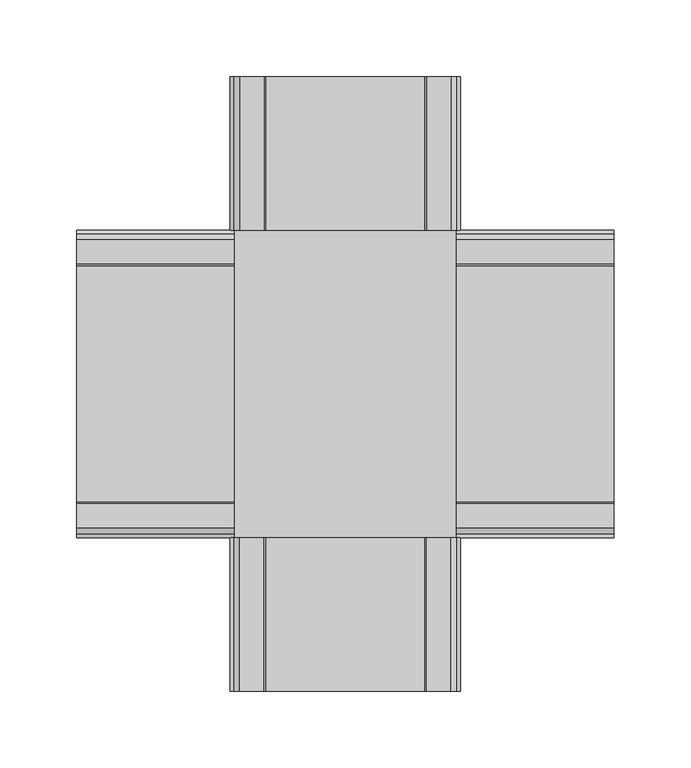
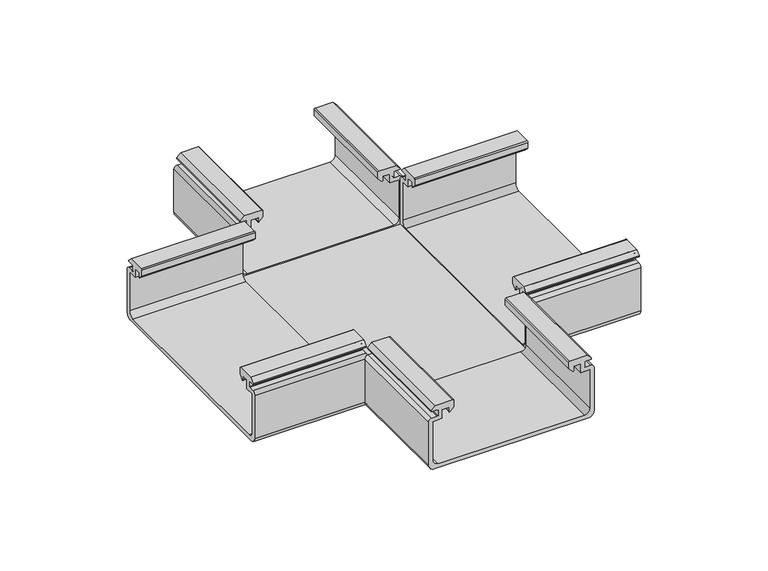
"""IFC4 building model written with IfcOpenShell, lengths in millimetres: cable carrier fitting geometry, CRBPE_Horizontal Cross-over_Basorplast : 4 x Basorplast PDBPE."""

from ifc_helpers import new_model, si_unit, point, frame, frame_2d, origin, place, context, project, spatial, polyline, circle_curve, trimmed, segment, composite_curve, outline, extrude, source, transform, mapped, element, save
from ifc_brep_helpers import plane_surface, cylinder_surface, revolved_surface, advanced_brep


def cable_carrier_fitting_d8d1faad(model_context):
    return source(origin(), model_context, "Body", "SolidModel", [
        extrude(outline(polyline([(72.46, -100.0), (-72.46, -100.0), (-72.46, 100.0), (72.46, 100.0), (72.46, -100.0)])), frame((0.0, 0.0, -30.0), z_axis=(0.0, 0.0, 1.0), x_axis=(1.0, 0.0, 0.0)), (0.0, 0.0, 1.0), 2.54),
        extrude(outline(composite_curve([segment(trimmed(circle_curve(frame_2d((-81.0, 20.0)), 0.5), [point((-80.6464466, 19.6464466))], [point((-81.5, 20.0))], False, "CARTESIAN"), True, "CONTINUOUS"), segment(polyline([(-81.5, 20.0), (-81.5, 24.0), (-87.9, 24.0), (-87.9, 15.7), (-96.4, 15.7), (-96.4, -21.4)]), True, "CONTINUOUS"), segment(trimmed(circle_curve(frame_2d((-91.4, -21.4)), 5.0), [point((-96.4, -21.4))], [point((-91.4, -26.4))], True, "CARTESIAN"), True, "CONTINUOUS"), segment(polyline([(-91.4, -26.4), (91.4, -26.4)]), True, "CONTINUOUS"), segment(trimmed(circle_curve(frame_2d((91.4, -21.4)), 5.0), [point((91.4, -26.4))], [point((96.4, -21.4))], True, "CARTESIAN"), True, "CONTINUOUS"), segment(polyline([(96.4, -21.4), (96.4, 15.7), (87.9, 15.7), (87.9, 24.0), (81.5, 24.0), (81.5, 20.0)]), True, "CONTINUOUS"), segment(trimmed(circle_curve(frame_2d((81.0, 20.0)), 0.5), [point((81.5, 20.0))], [point((80.6464466, 19.6464466))], False, "CARTESIAN"), True, "CONTINUOUS"), segment(polyline([(80.6464466, 19.6464466), (77.0, 23.2928932), (77.0, 29.0)]), True, "CONTINUOUS"), segment(trimmed(circle_curve(frame_2d((78.0, 29.0)), 1.0), [point((77.0, 29.0))], [point((78.0, 30.0))], False, "CARTESIAN"), True, "CONTINUOUS"), segment(polyline([(78.0, 30.0), (93.8, 30.0), (97.5, 26.3), (97.5, 25.3), (92.0, 25.3)]), True, "CONTINUOUS"), segment(trimmed(circle_curve(frame_2d((92.0, 24.8)), 0.5), [point((92.0, 25.3))], [point((91.5, 24.8))], True, "CARTESIAN"), True, "CONTINUOUS"), segment(polyline([(91.5, 24.8), (91.5, 19.8)]), True, "CONTINUOUS"), segment(trimmed(circle_curve(frame_2d((92.0, 19.8)), 0.5), [point((91.5, 19.8))], [point((92.0, 19.3))], True, "CARTESIAN"), True, "CONTINUOUS"), segment(polyline([(92.0, 19.3), (97.0, 19.3)]), True, "CONTINUOUS"), segment(trimmed(circle_curve(frame_2d((97.0, 16.3)), 3.0), [point((97.0, 19.3))], [point((100.0, 16.3))], False, "CARTESIAN"), True, "CONTINUOUS"), segment(polyline([(100.0, 16.3), (100.0, -25.0)]), True, "CONTINUOUS"), segment(trimmed(circle_curve(frame_2d((95.0, -25.0)), 5.0), [point((100.0, -25.0))], [point((95.0, -30.0))], False, "CARTESIAN"), True, "CONTINUOUS"), segment(polyline([(95.0, -30.0), (-95.0, -30.0)]), True, "CONTINUOUS"), segment(trimmed(circle_curve(frame_2d((-95.0, -25.0)), 5.0), [point((-95.0, -30.0))], [point((-100.0, -25.0))], False, "CARTESIAN"), True, "CONTINUOUS"), segment(polyline([(-100.0, -25.0), (-100.0, 16.3)]), True, "CONTINUOUS"), segment(trimmed(circle_curve(frame_2d((-97.0, 16.3)), 3.0), [point((-100.0, 16.3))], [point((-97.0, 19.3))], False, "CARTESIAN"), True, "CONTINUOUS"), segment(polyline([(-97.0, 19.3), (-92.0, 19.3)]), True, "CONTINUOUS"), segment(trimmed(circle_curve(frame_2d((-92.0, 19.8)), 0.5), [point((-92.0, 19.3))], [point((-91.5, 19.8))], True, "CARTESIAN"), True, "CONTINUOUS"), segment(polyline([(-91.5, 19.8), (-91.5, 24.8)]), True, "CONTINUOUS"), segment(trimmed(circle_curve(frame_2d((-92.0, 24.8)), 0.5), [point((-91.5, 24.8))], [point((-92.0, 25.3))], True, "CARTESIAN"), True, "CONTINUOUS"), segment(polyline([(-92.0, 25.3), (-97.5, 25.3), (-97.5, 26.3), (-93.8, 30.0), (-78.0, 30.0)]), True, "CONTINUOUS"), segment(trimmed(circle_curve(frame_2d((-78.0, 29.0)), 1.0), [point((-78.0, 30.0))], [point((-77.0, 29.0))], False, "CARTESIAN"), True, "CONTINUOUS"), segment(polyline([(-77.0, 29.0), (-77.0, 23.2928932), (-80.6464466, 19.6464466)]), True, "CONTINUOUS")], self_intersect=False)), frame((72.46, 0.0, 0.0), z_axis=(1.0, 0.0, 0.0), x_axis=(0.0, 1.0, 0.0)), (0.0, 0.0, 1.0), 102.54),
        advanced_brep(
        [(-175.0, -80.6464466, 19.6464466), (-175.0, -81.5, 20.0), (-175.0, -81.5, 24.0), (-175.0, -87.9, 24.0), (-175.0, -87.9, 15.7), (-175.0, -96.4, 15.7), (-175.0, -96.4, -21.4), (-175.0, -91.4, -26.4), (-175.0, 91.4, -26.4), (-175.0, 96.4, -21.4), (-175.0, 96.4, 15.7), (-175.0, 87.9, 15.7), (-175.0, 87.9, 24.0), (-175.0, 81.5, 24.0), (-175.0, 81.5, 20.0), (-175.0, 80.6464466, 19.6464466), (-175.0, 77.0, 23.2928932), (-175.0, 77.0, 29.0), (-175.0, 78.0, 30.0), (-175.0, 93.8, 30.0), (-175.0, 97.5, 26.3), (-175.0, 97.5, 25.3), (-175.0, 92.0, 25.3), (-175.0, 91.5, 24.8), (-175.0, 91.5, 19.8), (-175.0, 92.0, 19.3), (-175.0, 97.0, 19.3), (-175.0, 100.0, 16.3), (-175.0, 100.0, -25.0), (-175.0, 95.0, -30.0), (-175.0, -95.0, -30.0), (-175.0, -100.0, -25.0), (-175.0, -100.0, 16.3), (-175.0, -97.0, 19.3), (-175.0, -92.0, 19.3), (-175.0, -91.5, 19.8), (-175.0, -91.5, 24.8), (-175.0, -92.0, 25.3), (-175.0, -97.5, 25.3), (-175.0, -97.5, 26.3), (-175.0, -93.8, 30.0), (-175.0, -78.0, 30.0), (-175.0, -77.0, 29.0), (-175.0, -77.0, 23.2928932), (-72.46, -80.6464466, 19.6464466), (-72.46, -77.0, 23.2928932), (-72.46, -77.0, 29.0), (-72.46, -78.0, 30.0), (-72.46, -93.8, 30.0), (-72.46, -97.5, 26.3), (-72.46, -97.5, 25.3), (-72.46, -92.0, 25.3), (-72.46, -91.5, 24.8), (-72.46, -91.5, 19.8), (-72.46, -92.0, 19.3), (-72.46, -97.0, 19.3), (-72.46, -100.0, 16.3), (-72.46, -100.0, -25.0), (-72.46, -95.0, -30.0), (-72.46, 95.0, -30.0), (-72.46, 100.0, -25.0), (-72.46, 100.0, 16.3), (-72.46, 97.0, 19.3), (-72.46, 92.0, 19.3), (-72.46, 91.5, 19.8), (-72.46, 91.5, 24.8), (-72.46, 92.0, 25.3), (-72.46, 97.5, 25.3), (-72.46, 97.5, 26.3), (-72.46, 93.8, 30.0), (-72.46, 78.0, 30.0), (-72.46, 77.0, 29.0), (-72.46, 77.0, 23.2928932), (-72.46, 80.6464466, 19.6464466), (-72.46, 81.5, 20.0), (-72.46, 81.5, 24.0), (-72.46, 87.9, 24.0), (-72.46, 87.9, 15.7), (-72.46, 96.4, 15.7), (-72.46, 96.4, -21.4), (-72.46, 91.4, -26.4), (-72.46, -91.4, -26.4), (-72.46, -96.4, -21.4), (-72.46, -96.4, 15.7), (-72.46, -87.9, 15.7), (-72.46, -87.9, 24.0), (-72.46, -81.5, 24.0), (-72.46, -81.5, 20.0), (-75.0, 100.0, 16.3), (-75.0, 100.0, -25.0), (-75.0, -100.0, -25.0), (-75.0, -100.0, 16.3), (55.6464466, -200.0, 19.6464466), (56.5, -200.0, 20.0), (56.5, -200.0, 24.0), (62.9, -200.0, 24.0), (62.9, -200.0, 15.7), (71.4, -200.0, 15.7), (71.4, -200.0, -21.4), (66.4, -200.0, -26.4), (-66.4, -200.0, -26.4), (-71.4, -200.0, -21.4), (-71.4, -200.0, 15.7), (-62.9, -200.0, 15.7), (-62.9, -200.0, 24.0), (-56.5, -200.0, 24.0), (-56.5, -200.0, 20.0), (-55.6464466, -200.0, 19.6464466), (-52.0, -200.0, 23.2928932), (-52.0, -200.0, 29.0), (-53.0, -200.0, 30.0), (-68.8, -200.0, 30.0), (-72.5, -200.0, 26.3), (-72.5, -200.0, 25.3), (-67.0, -200.0, 25.3), (-66.5, -200.0, 24.8), (-66.5, -200.0, 19.8), (-67.0, -200.0, 19.3), (-72.0, -200.0, 19.3), (-75.0, -200.0, 16.3), (-75.0, -200.0, -25.0), (-70.0, -200.0, -30.0), (70.0, -200.0, -30.0), (75.0, -200.0, -25.0), (75.0, -200.0, 16.3), (72.0, -200.0, 19.3), (67.0, -200.0, 19.3), (66.5, -200.0, 19.8), (66.5, -200.0, 24.8), (67.0, -200.0, 25.3), (72.5, -200.0, 25.3), (72.5, -200.0, 26.3), (68.8, -200.0, 30.0), (53.0, -200.0, 30.0), (52.0, -200.0, 29.0), (52.0, -200.0, 23.2928932), (55.6464466, -100.0, 19.6464466), (52.0, -100.0, 23.2928932), (52.0, -100.0, 29.0), (53.0, -100.0, 30.0), (68.8, -100.0, 30.0), (72.5, -100.0, 26.3), (72.5, -100.0, 25.3), (67.0, -100.0, 25.3), (66.5, -100.0, 24.8), (66.5, -100.0, 19.8), (67.0, -100.0, 19.3), (72.0, -100.0, 19.3), (75.0, -100.0, 16.3), (75.0, -100.0, -25.0), (70.0, -100.0, -30.0), (-70.0, -100.0, -30.0), (-72.0, -100.0, 19.3), (-67.0, -100.0, 19.3), (-66.5, -100.0, 19.8), (-66.5, -100.0, 24.8), (-67.0, -100.0, 25.3), (-72.5, -100.0, 25.3), (-72.5, -100.0, 26.3), (-68.8, -100.0, 30.0), (-53.0, -100.0, 30.0), (-52.0, -100.0, 29.0), (-52.0, -100.0, 23.2928932), (-55.6464466, -100.0, 19.6464466), (-56.5, -100.0, 20.0), (-56.5, -100.0, 24.0), (-62.9, -100.0, 24.0), (-62.9, -100.0, 15.7), (-71.4, -100.0, 15.7), (-71.4, -100.0, -21.4), (-66.4, -100.0, -26.4), (66.4, -100.0, -26.4), (71.4, -100.0, -21.4), (71.4, -100.0, 15.7), (62.9, -100.0, 15.7), (62.9, -100.0, 24.0), (56.5, -100.0, 24.0), (56.5, -100.0, 20.0), (-55.6464466, 200.0, 19.6464466), (-56.5, 200.0, 20.0), (-56.5, 200.0, 24.0), (-62.9, 200.0, 24.0), (-62.9, 200.0, 15.7), (-71.4, 200.0, 15.7), (-71.4, 200.0, -21.4), (-66.4, 200.0, -26.4), (66.4, 200.0, -26.4), (71.4, 200.0, -21.4), (71.4, 200.0, 15.7), (62.9, 200.0, 15.7), (62.9, 200.0, 24.0), (56.5, 200.0, 24.0), (56.5, 200.0, 20.0), (55.6464466, 200.0, 19.6464466), (52.0, 200.0, 23.2928932), (52.0, 200.0, 29.0), (53.0, 200.0, 30.0), (68.8, 200.0, 30.0), (72.5, 200.0, 26.3), (72.5, 200.0, 25.3), (67.0, 200.0, 25.3), (66.5, 200.0, 24.8), (66.5, 200.0, 19.8), (67.0, 200.0, 19.3), (72.0, 200.0, 19.3), (75.0, 200.0, 16.3), (75.0, 200.0, -25.0), (70.0, 200.0, -30.0), (-70.0, 200.0, -30.0), (-75.0, 200.0, -25.0), (-75.0, 200.0, 16.3), (-72.0, 200.0, 19.3), (-67.0, 200.0, 19.3), (-66.5, 200.0, 19.8), (-66.5, 200.0, 24.8), (-67.0, 200.0, 25.3), (-72.5, 200.0, 25.3), (-72.5, 200.0, 26.3), (-68.8, 200.0, 30.0), (-53.0, 200.0, 30.0), (-52.0, 200.0, 29.0), (-52.0, 200.0, 23.2928932), (-55.6464466, 100.0, 19.6464466), (-52.0, 100.0, 23.2928932), (-52.0, 100.0, 29.0), (-53.0, 100.0, 30.0), (-68.8, 100.0, 30.0), (-72.5, 100.0, 26.3), (-72.5, 100.0, 25.3), (-67.0, 100.0, 25.3), (-66.5, 100.0, 24.8), (-66.5, 100.0, 19.8), (-67.0, 100.0, 19.3), (-72.0, 100.0, 19.3), (-70.0, 100.0, -30.0), (70.0, 100.0, -30.0), (75.0, 100.0, -25.0), (75.0, 100.0, 16.3), (72.0, 100.0, 19.3), (67.0, 100.0, 19.3), (66.5, 100.0, 19.8), (66.5, 100.0, 24.8), (67.0, 100.0, 25.3), (72.5, 100.0, 25.3), (72.5, 100.0, 26.3), (68.8, 100.0, 30.0), (53.0, 100.0, 30.0), (52.0, 100.0, 29.0), (52.0, 100.0, 23.2928932), (55.6464466, 100.0, 19.6464466), (56.5, 100.0, 20.0), (56.5, 100.0, 24.0), (62.9, 100.0, 24.0), (62.9, 100.0, 15.7), (71.4, 100.0, 15.7), (71.4, 100.0, -21.4), (66.4, 100.0, -26.4), (-66.4, 100.0, -26.4), (-71.4, 100.0, -21.4), (-71.4, 100.0, 15.7), (-62.9, 100.0, 15.7), (-62.9, 100.0, 24.0), (-56.5, 100.0, 24.0), (-56.5, 100.0, 20.0)],
        [
            (0, 1, circle_curve(frame((-175.0, -81.0, 20.0), z_axis=(-1.0, 0.0, 0.0), x_axis=(0.0, 1.0, 0.0)), 0.5)),
            (1, 2),
            (2, 3),
            (3, 4),
            (4, 5),
            (5, 6),
            (6, 7, circle_curve(frame((-175.0, -91.4, -21.4), z_axis=(1.0, 0.0, 0.0), x_axis=(0.0, 1.0, 0.0)), 5.0)),
            (7, 8),
            (8, 9, circle_curve(frame((-175.0, 91.4, -21.4), z_axis=(1.0, 0.0, 0.0), x_axis=(0.0, 1.0, 0.0)), 5.0)),
            (9, 10),
            (10, 11),
            (11, 12),
            (12, 13),
            (13, 14),
            (14, 15, circle_curve(frame((-175.0, 81.0, 20.0), z_axis=(-1.0, 0.0, 0.0), x_axis=(0.0, 1.0, 0.0)), 0.5)),
            (15, 16),
            (16, 17),
            (17, 18, circle_curve(frame((-175.0, 78.0, 29.0), z_axis=(-1.0, 0.0, 0.0), x_axis=(0.0, 1.0, 0.0)), 1.0)),
            (18, 19),
            (19, 20),
            (20, 21),
            (21, 22),
            (22, 23, circle_curve(frame((-175.0, 92.0, 24.8), z_axis=(1.0, 0.0, 0.0), x_axis=(0.0, 1.0, 0.0)), 0.5)),
            (23, 24),
            (24, 25, circle_curve(frame((-175.0, 92.0, 19.8), z_axis=(1.0, 0.0, 0.0), x_axis=(0.0, 1.0, 0.0)), 0.5)),
            (25, 26),
            (26, 27, circle_curve(frame((-175.0, 97.0, 16.3), z_axis=(-1.0, 0.0, 0.0), x_axis=(0.0, 1.0, 0.0)), 3.0)),
            (27, 28),
            (28, 29, circle_curve(frame((-175.0, 95.0, -25.0), z_axis=(-1.0, 0.0, 0.0), x_axis=(0.0, 1.0, 0.0)), 5.0)),
            (29, 30),
            (30, 31, circle_curve(frame((-175.0, -95.0, -25.0), z_axis=(-1.0, 0.0, 0.0), x_axis=(0.0, 1.0, 0.0)), 5.0)),
            (31, 32),
            (32, 33, circle_curve(frame((-175.0, -97.0, 16.3), z_axis=(-1.0, 0.0, 0.0), x_axis=(0.0, 1.0, 0.0)), 3.0)),
            (33, 34),
            (34, 35, circle_curve(frame((-175.0, -92.0, 19.8), z_axis=(1.0, 0.0, 0.0), x_axis=(0.0, 1.0, 0.0)), 0.5)),
            (35, 36),
            (36, 37, circle_curve(frame((-175.0, -92.0, 24.8), z_axis=(1.0, 0.0, 0.0), x_axis=(0.0, 1.0, 0.0)), 0.5)),
            (37, 38),
            (38, 39),
            (39, 40),
            (40, 41),
            (41, 42, circle_curve(frame((-175.0, -78.0, 29.0), z_axis=(-1.0, 0.0, 0.0), x_axis=(0.0, 1.0, 0.0)), 1.0)),
            (42, 43),
            (43, 0),
            (44, 45),
            (45, 46),
            (46, 47, circle_curve(frame((-72.46, -78.0, 29.0), z_axis=(1.0, 0.0, 0.0), x_axis=(0.0, 1.0, 0.0)), 1.0)),
            (47, 48),
            (48, 49),
            (49, 50),
            (50, 51),
            (51, 52, circle_curve(frame((-72.46, -92.0, 24.8), z_axis=(-1.0, 0.0, 0.0), x_axis=(0.0, 1.0, 0.0)), 0.5)),
            (52, 53),
            (53, 54, circle_curve(frame((-72.46, -92.0, 19.8), z_axis=(-1.0, 0.0, 0.0), x_axis=(0.0, 1.0, 0.0)), 0.5)),
            (54, 55),
            (55, 56, circle_curve(frame((-72.46, -97.0, 16.3), z_axis=(1.0, 0.0, 0.0), x_axis=(0.0, 1.0, 0.0)), 3.0)),
            (56, 57),
            (57, 58, circle_curve(frame((-72.46, -95.0, -25.0), z_axis=(1.0, 0.0, 0.0), x_axis=(0.0, 1.0, 0.0)), 5.0)),
            (58, 59),
            (59, 60, circle_curve(frame((-72.46, 95.0, -25.0), z_axis=(1.0, 0.0, 0.0), x_axis=(0.0, 1.0, 0.0)), 5.0)),
            (60, 61),
            (61, 62, circle_curve(frame((-72.46, 97.0, 16.3), z_axis=(1.0, 0.0, 0.0), x_axis=(0.0, 1.0, 0.0)), 3.0)),
            (62, 63),
            (63, 64, circle_curve(frame((-72.46, 92.0, 19.8), z_axis=(-1.0, 0.0, 0.0), x_axis=(0.0, 1.0, 0.0)), 0.5)),
            (64, 65),
            (65, 66, circle_curve(frame((-72.46, 92.0, 24.8), z_axis=(-1.0, 0.0, 0.0), x_axis=(0.0, 1.0, 0.0)), 0.5)),
            (66, 67),
            (67, 68),
            (68, 69),
            (69, 70),
            (70, 71, circle_curve(frame((-72.46, 78.0, 29.0), z_axis=(1.0, 0.0, 0.0), x_axis=(0.0, 1.0, 0.0)), 1.0)),
            (71, 72),
            (72, 73),
            (73, 74, circle_curve(frame((-72.46, 81.0, 20.0), z_axis=(1.0, 0.0, 0.0), x_axis=(0.0, 1.0, 0.0)), 0.5)),
            (74, 75),
            (75, 76),
            (76, 77),
            (77, 78),
            (78, 79),
            (79, 80, circle_curve(frame((-72.46, 91.4, -21.4), z_axis=(-1.0, 0.0, 0.0), x_axis=(0.0, 1.0, 0.0)), 5.0)),
            (80, 81),
            (81, 82, circle_curve(frame((-72.46, -91.4, -21.4), z_axis=(-1.0, 0.0, 0.0), x_axis=(0.0, 1.0, 0.0)), 5.0)),
            (82, 83),
            (83, 84),
            (84, 85),
            (85, 86),
            (86, 87),
            (87, 44, circle_curve(frame((-72.46, -81.0, 20.0), z_axis=(1.0, 0.0, 0.0), x_axis=(0.0, 1.0, 0.0)), 0.5)),
            (0, 44),
            (87, 1),
            (86, 2),
            (85, 3),
            (84, 4),
            (83, 5),
            (82, 6),
            (81, 7),
            (80, 8),
            (79, 9),
            (78, 10),
            (77, 11),
            (76, 12),
            (75, 13),
            (74, 14),
            (73, 15),
            (72, 16),
            (71, 17),
            (70, 18),
            (69, 19),
            (68, 20),
            (67, 21),
            (66, 22),
            (65, 23),
            (64, 24),
            (63, 25),
            (62, 26),
            (61, 88),
            (88, 27),
            (88, 89),
            (89, 28),
            (89, 60),
            (59, 29),
            (58, 30),
            (57, 90),
            (90, 31),
            (90, 91),
            (91, 32),
            (91, 56),
            (55, 33),
            (54, 34),
            (53, 35),
            (52, 36),
            (51, 37),
            (50, 38),
            (49, 39),
            (48, 40),
            (47, 41),
            (46, 42),
            (45, 43),
            (92, 93, circle_curve(frame((56.0, -200.0, 20.0), z_axis=(0.0, -1.0, 0.0), x_axis=(-1.0, 0.0, 0.0)), 0.5)),
            (93, 94),
            (94, 95),
            (95, 96),
            (96, 97),
            (97, 98),
            (98, 99, circle_curve(frame((66.4, -200.0, -21.4), z_axis=(0.0, 1.0, 0.0), x_axis=(-1.0, 0.0, 0.0)), 5.0)),
            (99, 100),
            (100, 101, circle_curve(frame((-66.4, -200.0, -21.4), z_axis=(0.0, 1.0, 0.0), x_axis=(-1.0, 0.0, 0.0)), 5.0)),
            (101, 102),
            (102, 103),
            (103, 104),
            (104, 105),
            (105, 106),
            (106, 107, circle_curve(frame((-56.0, -200.0, 20.0), z_axis=(0.0, -1.0, 0.0), x_axis=(-1.0, 0.0, 0.0)), 0.5)),
            (107, 108),
            (108, 109),
            (109, 110, circle_curve(frame((-53.0, -200.0, 29.0), z_axis=(0.0, -1.0, 0.0), x_axis=(-1.0, 0.0, 0.0)), 1.0)),
            (110, 111),
            (111, 112),
            (112, 113),
            (113, 114),
            (114, 115, circle_curve(frame((-67.0, -200.0, 24.8), z_axis=(0.0, 1.0, 0.0), x_axis=(-1.0, 0.0, 0.0)), 0.5)),
            (115, 116),
            (116, 117, circle_curve(frame((-67.0, -200.0, 19.8), z_axis=(0.0, 1.0, 0.0), x_axis=(-1.0, 0.0, 0.0)), 0.5)),
            (117, 118),
            (118, 119, circle_curve(frame((-72.0, -200.0, 16.3), z_axis=(0.0, -1.0, 0.0), x_axis=(-1.0, 0.0, 0.0)), 3.0)),
            (119, 120),
            (120, 121, circle_curve(frame((-70.0, -200.0, -25.0), z_axis=(0.0, -1.0, 0.0), x_axis=(-1.0, 0.0, 0.0)), 5.0)),
            (121, 122),
            (122, 123, circle_curve(frame((70.0, -200.0, -25.0), z_axis=(0.0, -1.0, 0.0), x_axis=(-1.0, 0.0, 0.0)), 5.0)),
            (123, 124),
            (124, 125, circle_curve(frame((72.0, -200.0, 16.3), z_axis=(0.0, -1.0, 0.0), x_axis=(-1.0, 0.0, 0.0)), 3.0)),
            (125, 126),
            (126, 127, circle_curve(frame((67.0, -200.0, 19.8), z_axis=(0.0, 1.0, 0.0), x_axis=(-1.0, 0.0, 0.0)), 0.5)),
            (127, 128),
            (128, 129, circle_curve(frame((67.0, -200.0, 24.8), z_axis=(0.0, 1.0, 0.0), x_axis=(-1.0, 0.0, 0.0)), 0.5)),
            (129, 130),
            (130, 131),
            (131, 132),
            (132, 133),
            (133, 134, circle_curve(frame((53.0, -200.0, 29.0), z_axis=(0.0, -1.0, 0.0), x_axis=(-1.0, 0.0, 0.0)), 1.0)),
            (134, 135),
            (135, 92),
            (136, 137),
            (137, 138),
            (138, 139, circle_curve(frame((53.0, -100.0, 29.0), z_axis=(0.0, 1.0, 0.0), x_axis=(-1.0, 0.0, 0.0)), 1.0)),
            (139, 140),
            (140, 141),
            (141, 142),
            (142, 143),
            (143, 144, circle_curve(frame((67.0, -100.0, 24.8), z_axis=(0.0, -1.0, 0.0), x_axis=(-1.0, 0.0, 0.0)), 0.5)),
            (144, 145),
            (145, 146, circle_curve(frame((67.0, -100.0, 19.8), z_axis=(0.0, -1.0, 0.0), x_axis=(-1.0, 0.0, 0.0)), 0.5)),
            (146, 147),
            (147, 148, circle_curve(frame((72.0, -100.0, 16.3), z_axis=(0.0, 1.0, 0.0), x_axis=(-1.0, 0.0, 0.0)), 3.0)),
            (148, 149),
            (149, 150, circle_curve(frame((70.0, -100.0, -25.0), z_axis=(0.0, 1.0, 0.0), x_axis=(-1.0, 0.0, 0.0)), 5.0)),
            (150, 151),
            (151, 90, circle_curve(frame((-70.0, -100.0, -25.0), z_axis=(0.0, 1.0, 0.0), x_axis=(-1.0, 0.0, 0.0)), 5.0)),
            (91, 152, circle_curve(frame((-72.0, -100.0, 16.3), z_axis=(0.0, 1.0, 0.0), x_axis=(-1.0, 0.0, 0.0)), 3.0)),
            (152, 153),
            (153, 154, circle_curve(frame((-67.0, -100.0, 19.8), z_axis=(0.0, -1.0, 0.0), x_axis=(-1.0, 0.0, 0.0)), 0.5)),
            (154, 155),
            (155, 156, circle_curve(frame((-67.0, -100.0, 24.8), z_axis=(0.0, -1.0, 0.0), x_axis=(-1.0, 0.0, 0.0)), 0.5)),
            (156, 157),
            (157, 158),
            (158, 159),
            (159, 160),
            (160, 161, circle_curve(frame((-53.0, -100.0, 29.0), z_axis=(0.0, 1.0, 0.0), x_axis=(-1.0, 0.0, 0.0)), 1.0)),
            (161, 162),
            (162, 163),
            (163, 164, circle_curve(frame((-56.0, -100.0, 20.0), z_axis=(0.0, 1.0, 0.0), x_axis=(-1.0, 0.0, 0.0)), 0.5)),
            (164, 165),
            (165, 166),
            (166, 167),
            (167, 168),
            (168, 169),
            (169, 170, circle_curve(frame((-66.4, -100.0, -21.4), z_axis=(0.0, -1.0, 0.0), x_axis=(-1.0, 0.0, 0.0)), 5.0)),
            (170, 171),
            (171, 172, circle_curve(frame((66.4, -100.0, -21.4), z_axis=(0.0, -1.0, 0.0), x_axis=(-1.0, 0.0, 0.0)), 5.0)),
            (172, 173),
            (173, 174),
            (174, 175),
            (175, 176),
            (176, 177),
            (177, 136, circle_curve(frame((56.0, -100.0, 20.0), z_axis=(0.0, 1.0, 0.0), x_axis=(-1.0, 0.0, 0.0)), 0.5)),
            (92, 136),
            (177, 93),
            (176, 94),
            (175, 95),
            (174, 96),
            (173, 97),
            (172, 98),
            (171, 99),
            (170, 100),
            (169, 101),
            (102, 168),
            (167, 103),
            (166, 104),
            (165, 105),
            (164, 106),
            (163, 107),
            (162, 108),
            (161, 109),
            (160, 110),
            (159, 111),
            (158, 112),
            (157, 113),
            (156, 114),
            (155, 115),
            (154, 116),
            (153, 117),
            (152, 118),
            (91, 119),
            (90, 120),
            (151, 121),
            (150, 122),
            (149, 123),
            (148, 124),
            (147, 125),
            (146, 126),
            (145, 127),
            (144, 128),
            (143, 129),
            (142, 130),
            (141, 131),
            (140, 132),
            (139, 133),
            (138, 134),
            (137, 135),
            (178, 179, circle_curve(frame((-56.0, 200.0, 20.0), z_axis=(0.0, 1.0, 0.0), x_axis=(1.0, 0.0, 0.0)), 0.5)),
            (179, 180),
            (180, 181),
            (181, 182),
            (182, 183),
            (183, 184),
            (184, 185, circle_curve(frame((-66.4, 200.0, -21.4), z_axis=(0.0, -1.0, 0.0), x_axis=(1.0, 0.0, 0.0)), 5.0)),
            (185, 186),
            (186, 187, circle_curve(frame((66.4, 200.0, -21.4), z_axis=(0.0, -1.0, 0.0), x_axis=(1.0, 0.0, 0.0)), 5.0)),
            (187, 188),
            (188, 189),
            (189, 190),
            (190, 191),
            (191, 192),
            (192, 193, circle_curve(frame((56.0, 200.0, 20.0), z_axis=(0.0, 1.0, 0.0), x_axis=(1.0, 0.0, 0.0)), 0.5)),
            (193, 194),
            (194, 195),
            (195, 196, circle_curve(frame((53.0, 200.0, 29.0), z_axis=(0.0, 1.0, 0.0), x_axis=(1.0, 0.0, 0.0)), 1.0)),
            (196, 197),
            (197, 198),
            (198, 199),
            (199, 200),
            (200, 201, circle_curve(frame((67.0, 200.0, 24.8), z_axis=(0.0, -1.0, 0.0), x_axis=(1.0, 0.0, 0.0)), 0.5)),
            (201, 202),
            (202, 203, circle_curve(frame((67.0, 200.0, 19.8), z_axis=(0.0, -1.0, 0.0), x_axis=(1.0, 0.0, 0.0)), 0.5)),
            (203, 204),
            (204, 205, circle_curve(frame((72.0, 200.0, 16.3), z_axis=(0.0, 1.0, 0.0), x_axis=(1.0, 0.0, 0.0)), 3.0)),
            (205, 206),
            (206, 207, circle_curve(frame((70.0, 200.0, -25.0), z_axis=(0.0, 1.0, 0.0), x_axis=(1.0, 0.0, 0.0)), 5.0)),
            (207, 208),
            (208, 209, circle_curve(frame((-70.0, 200.0, -25.0), z_axis=(0.0, 1.0, 0.0), x_axis=(1.0, 0.0, 0.0)), 5.0)),
            (209, 210),
            (210, 211, circle_curve(frame((-72.0, 200.0, 16.3), z_axis=(0.0, 1.0, 0.0), x_axis=(1.0, 0.0, 0.0)), 3.0)),
            (211, 212),
            (212, 213, circle_curve(frame((-67.0, 200.0, 19.8), z_axis=(0.0, -1.0, 0.0), x_axis=(1.0, 0.0, 0.0)), 0.5)),
            (213, 214),
            (214, 215, circle_curve(frame((-67.0, 200.0, 24.8), z_axis=(0.0, -1.0, 0.0), x_axis=(1.0, 0.0, 0.0)), 0.5)),
            (215, 216),
            (216, 217),
            (217, 218),
            (218, 219),
            (219, 220, circle_curve(frame((-53.0, 200.0, 29.0), z_axis=(0.0, 1.0, 0.0), x_axis=(1.0, 0.0, 0.0)), 1.0)),
            (220, 221),
            (221, 178),
            (222, 223),
            (223, 224),
            (224, 225, circle_curve(frame((-53.0, 100.0, 29.0), z_axis=(0.0, -1.0, 0.0), x_axis=(1.0, 0.0, 0.0)), 1.0)),
            (225, 226),
            (226, 227),
            (227, 228),
            (228, 229),
            (229, 230, circle_curve(frame((-67.0, 100.0, 24.8), z_axis=(0.0, 1.0, 0.0), x_axis=(1.0, 0.0, 0.0)), 0.5)),
            (230, 231),
            (231, 232, circle_curve(frame((-67.0, 100.0, 19.8), z_axis=(0.0, 1.0, 0.0), x_axis=(1.0, 0.0, 0.0)), 0.5)),
            (232, 233),
            (233, 88, circle_curve(frame((-72.0, 100.0, 16.3), z_axis=(0.0, -1.0, 0.0), x_axis=(1.0, 0.0, 0.0)), 3.0)),
            (89, 234, circle_curve(frame((-70.0, 100.0, -25.0), z_axis=(0.0, -1.0, 0.0), x_axis=(1.0, 0.0, 0.0)), 5.0)),
            (234, 235),
            (235, 236, circle_curve(frame((70.0, 100.0, -25.0), z_axis=(0.0, -1.0, 0.0), x_axis=(1.0, 0.0, 0.0)), 5.0)),
            (236, 237),
            (237, 238, circle_curve(frame((72.0, 100.0, 16.3), z_axis=(0.0, -1.0, 0.0), x_axis=(1.0, 0.0, 0.0)), 3.0)),
            (238, 239),
            (239, 240, circle_curve(frame((67.0, 100.0, 19.8), z_axis=(0.0, 1.0, 0.0), x_axis=(1.0, 0.0, 0.0)), 0.5)),
            (240, 241),
            (241, 242, circle_curve(frame((67.0, 100.0, 24.8), z_axis=(0.0, 1.0, 0.0), x_axis=(1.0, 0.0, 0.0)), 0.5)),
            (242, 243),
            (243, 244),
            (244, 245),
            (245, 246),
            (246, 247, circle_curve(frame((53.0, 100.0, 29.0), z_axis=(0.0, -1.0, 0.0), x_axis=(1.0, 0.0, 0.0)), 1.0)),
            (247, 248),
            (248, 249),
            (249, 250, circle_curve(frame((56.0, 100.0, 20.0), z_axis=(0.0, -1.0, 0.0), x_axis=(1.0, 0.0, 0.0)), 0.5)),
            (250, 251),
            (251, 252),
            (252, 253),
            (253, 254),
            (254, 255),
            (255, 256, circle_curve(frame((66.4, 100.0, -21.4), z_axis=(0.0, 1.0, 0.0), x_axis=(1.0, 0.0, 0.0)), 5.0)),
            (256, 257),
            (257, 258, circle_curve(frame((-66.4, 100.0, -21.4), z_axis=(0.0, 1.0, 0.0), x_axis=(1.0, 0.0, 0.0)), 5.0)),
            (258, 259),
            (259, 260),
            (260, 261),
            (261, 262),
            (262, 263),
            (263, 222, circle_curve(frame((-56.0, 100.0, 20.0), z_axis=(0.0, -1.0, 0.0), x_axis=(1.0, 0.0, 0.0)), 0.5)),
            (178, 222),
            (263, 179),
            (262, 180),
            (261, 181),
            (260, 182),
            (259, 183),
            (184, 258),
            (257, 185),
            (256, 186),
            (255, 187),
            (254, 188),
            (253, 189),
            (252, 190),
            (251, 191),
            (250, 192),
            (249, 193),
            (248, 194),
            (247, 195),
            (246, 196),
            (245, 197),
            (244, 198),
            (243, 199),
            (242, 200),
            (241, 201),
            (240, 202),
            (239, 203),
            (238, 204),
            (237, 205),
            (236, 206),
            (235, 207),
            (234, 208),
            (89, 209),
            (88, 210),
            (233, 211),
            (232, 212),
            (231, 213),
            (230, 214),
            (229, 215),
            (228, 216),
            (227, 217),
            (226, 218),
            (225, 219),
            (224, 220),
            (223, 221),
        ],
        [
            plane_surface(frame((-175.0, 0.0, 0.0), z_axis=(-1.0, 0.0, 0.0), x_axis=(0.0, 0.0, 1.0))),
            plane_surface(frame((-72.46, 0.0, 0.0), z_axis=(1.0, 0.0, 0.0), x_axis=(0.0, 0.0, 1.0))),
            cylinder_surface(frame((-175.0, -81.0, 20.0), z_axis=(-1.0, 0.0, 0.0), x_axis=(0.0, 1.0, 0.0)), 0.5),
            plane_surface(frame((-175.0, -81.5, 20.0), z_axis=(0.0, -1.0, 0.0), x_axis=(1.0, 0.0, 0.0))),
            plane_surface(frame((-175.0, -81.5, 24.0), z_axis=(0.0, 0.0, -1.0), x_axis=(1.0, 0.0, 0.0))),
            plane_surface(frame((-175.0, -87.9, 24.0), z_axis=(0.0, 1.0, 0.0), x_axis=(1.0, 0.0, 0.0))),
            plane_surface(frame((-175.0, -87.9, 15.7), z_axis=(0.0, 0.0, -1.0), x_axis=(1.0, 0.0, 0.0))),
            plane_surface(frame((-175.0, -96.4, 15.7), z_axis=(0.0, 1.0, 0.0), x_axis=(1.0, 0.0, 0.0))),
            revolved_surface(polyline([(-72.46, -86.4, -21.4), (-175.0, -86.4, -21.4)]), (-175.0, -91.4, -21.4), (1.0, 0.0, 0.0)),
            plane_surface(frame((-175.0, -91.4, -26.4), z_axis=(0.0, 0.0, 1.0), x_axis=(1.0, 0.0, 0.0))),
            revolved_surface(polyline([(-72.46, 96.4, -21.4), (-175.0, 96.4, -21.4)]), (-175.0, 91.4, -21.4), (1.0, 0.0, 0.0)),
            plane_surface(frame((-175.0, 96.4, -21.4), z_axis=(0.0, -1.0, 0.0), x_axis=(1.0, 0.0, 0.0))),
            plane_surface(frame((-175.0, 96.4, 15.7), z_axis=(0.0, 0.0, -1.0), x_axis=(1.0, 0.0, 0.0))),
            plane_surface(frame((-175.0, 87.9, 15.7), z_axis=(0.0, -1.0, 0.0), x_axis=(1.0, 0.0, 0.0))),
            plane_surface(frame((-175.0, 87.9, 24.0), z_axis=(0.0, 0.0, -1.0), x_axis=(1.0, 0.0, 0.0))),
            plane_surface(frame((-175.0, 81.5, 24.0), z_axis=(0.0, 1.0, 0.0), x_axis=(1.0, 0.0, 0.0))),
            cylinder_surface(frame((-175.0, 81.0, 20.0), z_axis=(-1.0, 0.0, 0.0), x_axis=(0.0, 1.0, 0.0)), 0.5),
            plane_surface(frame((-175.0, 80.6464466, 19.6464466), z_axis=(0.0, -0.7071067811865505, -0.7071067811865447), x_axis=(1.0, 0.0, 0.0))),
            plane_surface(frame((-175.0, 77.0, 23.2928932), z_axis=(0.0, -1.0, 0.0), x_axis=(1.0, 0.0, 0.0))),
            cylinder_surface(frame((-175.0, 78.0, 29.0), z_axis=(-1.0, 0.0, 0.0), x_axis=(0.0, 1.0, 0.0)), 1.0),
            plane_surface(frame((-175.0, 78.0, 30.0), z_axis=(0.0, 0.0, 1.0), x_axis=(1.0, 0.0, 0.0))),
            plane_surface(frame((-175.0, 93.8, 30.0), z_axis=(0.0, 0.707106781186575, 0.70710678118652), x_axis=(1.0, 0.0, 0.0))),
            plane_surface(frame((-175.0, 97.5, 26.3), z_axis=(0.0, 1.0, 0.0), x_axis=(1.0, 0.0, 0.0))),
            plane_surface(frame((-175.0, 97.5, 25.3), z_axis=(0.0, 0.0, -1.0), x_axis=(1.0, 0.0, 0.0))),
            revolved_surface(polyline([(-72.46, 92.5, 24.8), (-175.0, 92.5, 24.8)]), (-175.0, 92.0, 24.8), (1.0, 0.0, 0.0)),
            plane_surface(frame((-175.0, 91.5, 24.8), z_axis=(0.0, 1.0, 0.0), x_axis=(1.0, 0.0, 0.0))),
            revolved_surface(polyline([(-72.46, 92.5, 19.8), (-175.0, 92.5, 19.8)]), (-175.0, 92.0, 19.8), (1.0, 0.0, 0.0)),
            plane_surface(frame((-175.0, 92.0, 19.3), z_axis=(0.0, 0.0, 1.0), x_axis=(1.0, 0.0, 0.0))),
            cylinder_surface(frame((-175.0, 97.0, 16.3), z_axis=(-1.0, 0.0, 0.0), x_axis=(0.0, 1.0, 0.0)), 3.0),
            plane_surface(frame((-175.0, 100.0, 16.3), z_axis=(0.0, 1.0, 0.0), x_axis=(1.0, 0.0, 0.0))),
            cylinder_surface(frame((-175.0, 95.0, -25.0), z_axis=(-1.0, 0.0, 0.0), x_axis=(0.0, 1.0, 0.0)), 5.0),
            plane_surface(frame((-175.0, 95.0, -30.0), z_axis=(0.0, 0.0, -1.0), x_axis=(1.0, 0.0, 0.0))),
            cylinder_surface(frame((-175.0, -95.0, -25.0), z_axis=(-1.0, 0.0, 0.0), x_axis=(0.0, 1.0, 0.0)), 5.0),
            plane_surface(frame((-175.0, -100.0, -25.0), z_axis=(0.0, -1.0, 0.0), x_axis=(1.0, 0.0, 0.0))),
            cylinder_surface(frame((-175.0, -97.0, 16.3), z_axis=(-1.0, 0.0, 0.0), x_axis=(0.0, 1.0, 0.0)), 3.0),
            plane_surface(frame((-175.0, -97.0, 19.3), z_axis=(0.0, 0.0, 1.0), x_axis=(1.0, 0.0, 0.0))),
            revolved_surface(polyline([(-72.46, -91.5, 19.8), (-175.0, -91.5, 19.8)]), (-175.0, -92.0, 19.8), (1.0, 0.0, 0.0)),
            plane_surface(frame((-175.0, -91.5, 19.8), z_axis=(0.0, -1.0, 0.0), x_axis=(1.0, 0.0, 0.0))),
            revolved_surface(polyline([(-72.46, -91.5, 24.8), (-175.0, -91.5, 24.8)]), (-175.0, -92.0, 24.8), (1.0, 0.0, 0.0)),
            plane_surface(frame((-175.0, -92.0, 25.3), z_axis=(0.0, 0.0, -1.0), x_axis=(1.0, 0.0, 0.0))),
            plane_surface(frame((-175.0, -97.5, 25.3), z_axis=(0.0, -1.0, 0.0), x_axis=(1.0, 0.0, 0.0))),
            plane_surface(frame((-175.0, -97.5, 26.3), z_axis=(0.0, -0.7071067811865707, 0.7071067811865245), x_axis=(1.0, 0.0, 0.0))),
            plane_surface(frame((-175.0, -93.8, 30.0), z_axis=(0.0, 0.0, 1.0), x_axis=(1.0, 0.0, 0.0))),
            cylinder_surface(frame((-175.0, -78.0, 29.0), z_axis=(-1.0, 0.0, 0.0), x_axis=(0.0, 1.0, 0.0)), 1.0),
            plane_surface(frame((-175.0, -77.0, 29.0), z_axis=(0.0, 1.0, 0.0), x_axis=(1.0, 0.0, 0.0))),
            plane_surface(frame((-175.0, -77.0, 23.2928932), z_axis=(0.0, 0.7071067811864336, -0.7071067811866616), x_axis=(1.0, 0.0, 0.0))),
            plane_surface(frame((0.0, -200.0, 0.0), z_axis=(0.0, -1.0, 0.0), x_axis=(0.0, 0.0, 1.0))),
            plane_surface(frame((0.0, -100.0, 0.0), z_axis=(0.0, 1.0, 0.0), x_axis=(0.0, 0.0, 1.0))),
            cylinder_surface(frame((56.0, -200.0, 20.0), z_axis=(0.0, -1.0, 0.0), x_axis=(-1.0, 0.0, 0.0)), 0.5),
            plane_surface(frame((56.5, -200.0, 20.0), z_axis=(1.0, 0.0, 0.0), x_axis=(0.0, 1.0, 0.0))),
            plane_surface(frame((56.5, -200.0, 24.0), z_axis=(0.0, 0.0, -1.0), x_axis=(0.0, 1.0, 0.0))),
            plane_surface(frame((62.9, -200.0, 24.0), z_axis=(-1.0, 0.0, 0.0), x_axis=(0.0, 1.0, 0.0))),
            plane_surface(frame((62.9, -200.0, 15.7), z_axis=(0.0, 0.0, -1.0), x_axis=(0.0, 1.0, 0.0))),
            plane_surface(frame((71.4, -200.0, 15.7), z_axis=(-1.0, 0.0, 0.0), x_axis=(0.0, 1.0, 0.0))),
            revolved_surface(polyline([(61.400000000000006, -100.0, -21.4), (61.400000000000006, -200.0, -21.4)]), (66.4, -200.0, -21.4), (0.0, 1.0, 0.0)),
            plane_surface(frame((66.4, -200.0, -26.4), z_axis=(0.0, 0.0, 1.0), x_axis=(0.0, 1.0, 0.0))),
            revolved_surface(polyline([(-71.4, -100.0, -21.4), (-71.4, -200.0, -21.4)]), (-66.4, -200.0, -21.4), (0.0, 1.0, 0.0)),
            plane_surface(frame((-71.4, -200.0, 15.7), z_axis=(0.0, 0.0, -1.0), x_axis=(0.0, 1.0, 0.0))),
            plane_surface(frame((-62.9, -200.0, 15.7), z_axis=(1.0, 0.0, 0.0), x_axis=(0.0, 1.0, 0.0))),
            plane_surface(frame((-62.9, -200.0, 24.0), z_axis=(0.0, 0.0, -1.0), x_axis=(0.0, 1.0, 0.0))),
            plane_surface(frame((-56.5, -200.0, 24.0), z_axis=(-1.0, 0.0, 0.0), x_axis=(0.0, 1.0, 0.0))),
            cylinder_surface(frame((-56.0, -200.0, 20.0), z_axis=(0.0, -1.0, 0.0), x_axis=(-1.0, 0.0, 0.0)), 0.5),
            plane_surface(frame((-55.6464466, -200.0, 19.6464466), z_axis=(0.7071067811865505, 0.0, -0.7071067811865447), x_axis=(0.0, 1.0, 0.0))),
            plane_surface(frame((-52.0, -200.0, 23.2928932), z_axis=(1.0, 0.0, 0.0), x_axis=(0.0, 1.0, 0.0))),
            cylinder_surface(frame((-53.0, -200.0, 29.0), z_axis=(0.0, -1.0, 0.0), x_axis=(-1.0, 0.0, 0.0)), 1.0),
            plane_surface(frame((-53.0, -200.0, 30.0), z_axis=(0.0, 0.0, 1.0), x_axis=(0.0, 1.0, 0.0))),
            plane_surface(frame((-68.8, -200.0, 30.0), z_axis=(-0.7071067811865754, 0.0, 0.7071067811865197), x_axis=(0.0, 1.0, 0.0))),
            plane_surface(frame((-72.5, -200.0, 26.3), z_axis=(-1.0, 0.0, 0.0), x_axis=(0.0, 1.0, 0.0))),
            plane_surface(frame((-72.5, -200.0, 25.3), z_axis=(0.0, 0.0, -1.0), x_axis=(0.0, 1.0, 0.0))),
            revolved_surface(polyline([(-67.5, -100.0, 24.8), (-67.5, -200.0, 24.8)]), (-67.0, -200.0, 24.8), (0.0, 1.0, 0.0)),
            plane_surface(frame((-66.5, -200.0, 24.8), z_axis=(-1.0, 0.0, 0.0), x_axis=(0.0, 1.0, 0.0))),
            revolved_surface(polyline([(-67.5, -100.0, 19.8), (-67.5, -200.0, 19.8)]), (-67.0, -200.0, 19.8), (0.0, 1.0, 0.0)),
            plane_surface(frame((-67.0, -200.0, 19.3), z_axis=(0.0, 0.0, 1.0), x_axis=(0.0, 1.0, 0.0))),
            cylinder_surface(frame((-72.0, -200.0, 16.3), z_axis=(0.0, -1.0, 0.0), x_axis=(-1.0, 0.0, 0.0)), 3.0),
            plane_surface(frame((-75.0, -200.0, 16.3), z_axis=(-1.0, 0.0, 0.0), x_axis=(0.0, 1.0, 0.0))),
            cylinder_surface(frame((-70.0, -200.0, -25.0), z_axis=(0.0, -1.0, 0.0), x_axis=(-1.0, 0.0, 0.0)), 5.0),
            plane_surface(frame((-70.0, -200.0, -30.0), z_axis=(0.0, 0.0, -1.0), x_axis=(0.0, 1.0, 0.0))),
            cylinder_surface(frame((70.0, -200.0, -25.0), z_axis=(0.0, -1.0, 0.0), x_axis=(-1.0, 0.0, 0.0)), 5.0),
            plane_surface(frame((75.0, -200.0, -25.0), z_axis=(1.0, 0.0, 0.0), x_axis=(0.0, 1.0, 0.0))),
            cylinder_surface(frame((72.0, -200.0, 16.3), z_axis=(0.0, -1.0, 0.0), x_axis=(-1.0, 0.0, 0.0)), 3.0),
            plane_surface(frame((72.0, -200.0, 19.3), z_axis=(0.0, 0.0, 1.0), x_axis=(0.0, 1.0, 0.0))),
            revolved_surface(polyline([(66.5, -100.0, 19.8), (66.5, -200.0, 19.8)]), (67.0, -200.0, 19.8), (0.0, 1.0, 0.0)),
            plane_surface(frame((66.5, -200.0, 19.8), z_axis=(1.0, 0.0, 0.0), x_axis=(0.0, 1.0, 0.0))),
            revolved_surface(polyline([(66.5, -100.0, 24.8), (66.5, -200.0, 24.8)]), (67.0, -200.0, 24.8), (0.0, 1.0, 0.0)),
            plane_surface(frame((67.0, -200.0, 25.3), z_axis=(0.0, 0.0, -1.0), x_axis=(0.0, 1.0, 0.0))),
            plane_surface(frame((72.5, -200.0, 25.3), z_axis=(1.0, 0.0, 0.0), x_axis=(0.0, 1.0, 0.0))),
            plane_surface(frame((72.5, -200.0, 26.3), z_axis=(0.7071067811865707, 0.0, 0.7071067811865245), x_axis=(0.0, 1.0, 0.0))),
            plane_surface(frame((68.8, -200.0, 30.0), z_axis=(0.0, 0.0, 1.0), x_axis=(0.0, 1.0, 0.0))),
            cylinder_surface(frame((53.0, -200.0, 29.0), z_axis=(0.0, -1.0, 0.0), x_axis=(-1.0, 0.0, 0.0)), 1.0),
            plane_surface(frame((52.0, -200.0, 29.0), z_axis=(-1.0, 0.0, 0.0), x_axis=(0.0, 1.0, 0.0))),
            plane_surface(frame((52.0, -200.0, 23.2928932), z_axis=(-0.7071067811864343, 0.0, -0.7071067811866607), x_axis=(0.0, 1.0, 0.0))),
            plane_surface(frame((0.0, 200.0, 0.0), z_axis=(0.0, 1.0, 0.0), x_axis=(0.0, 0.0, 1.0))),
            plane_surface(frame((0.0, 100.0, 0.0), z_axis=(0.0, -1.0, 0.0), x_axis=(0.0, 0.0, 1.0))),
            cylinder_surface(frame((-56.0, 200.0, 20.0), z_axis=(0.0, 1.0, 0.0), x_axis=(1.0, 0.0, 0.0)), 0.5),
            plane_surface(frame((-56.5, 200.0, 20.0), z_axis=(-1.0, 0.0, 0.0), x_axis=(0.0, -1.0, 0.0))),
            plane_surface(frame((-56.5, 200.0, 24.0), z_axis=(0.0, 0.0, -1.0), x_axis=(0.0, -1.0, 0.0))),
            plane_surface(frame((-62.9, 200.0, 24.0), z_axis=(1.0, 0.0, 0.0), x_axis=(0.0, -1.0, 0.0))),
            plane_surface(frame((-62.9, 200.0, 15.7), z_axis=(0.0, 0.0, -1.0), x_axis=(0.0, -1.0, 0.0))),
            revolved_surface(polyline([(-61.400000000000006, 100.0, -21.4), (-61.400000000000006, 200.0, -21.4)]), (-66.4, 200.0, -21.4), (0.0, -1.0, 0.0)),
            plane_surface(frame((-66.4, 200.0, -26.4), z_axis=(0.0, 0.0, 1.0), x_axis=(0.0, -1.0, 0.0))),
            revolved_surface(polyline([(71.4, 100.0, -21.4), (71.4, 200.0, -21.4)]), (66.4, 200.0, -21.4), (0.0, -1.0, 0.0)),
            plane_surface(frame((71.4, 200.0, -21.4), z_axis=(-1.0, 0.0, 0.0), x_axis=(0.0, -1.0, 0.0))),
            plane_surface(frame((71.4, 200.0, 15.7), z_axis=(0.0, 0.0, -1.0), x_axis=(0.0, -1.0, 0.0))),
            plane_surface(frame((62.9, 200.0, 15.7), z_axis=(-1.0, 0.0, 0.0), x_axis=(0.0, -1.0, 0.0))),
            plane_surface(frame((62.9, 200.0, 24.0), z_axis=(0.0, 0.0, -1.0), x_axis=(0.0, -1.0, 0.0))),
            plane_surface(frame((56.5, 200.0, 24.0), z_axis=(1.0, 0.0, 0.0), x_axis=(0.0, -1.0, 0.0))),
            cylinder_surface(frame((56.0, 200.0, 20.0), z_axis=(0.0, 1.0, 0.0), x_axis=(1.0, 0.0, 0.0)), 0.5),
            plane_surface(frame((55.6464466, 200.0, 19.6464466), z_axis=(-0.7071067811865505, 0.0, -0.7071067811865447), x_axis=(0.0, -1.0, 0.0))),
            plane_surface(frame((52.0, 200.0, 23.2928932), z_axis=(-1.0, 0.0, 0.0), x_axis=(0.0, -1.0, 0.0))),
            cylinder_surface(frame((53.0, 200.0, 29.0), z_axis=(0.0, 1.0, 0.0), x_axis=(1.0, 0.0, 0.0)), 1.0),
            plane_surface(frame((53.0, 200.0, 30.0), z_axis=(0.0, 0.0, 1.0), x_axis=(0.0, -1.0, 0.0))),
            plane_surface(frame((68.8, 200.0, 30.0), z_axis=(0.7071067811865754, 0.0, 0.7071067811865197), x_axis=(0.0, -1.0, 0.0))),
            plane_surface(frame((72.5, 200.0, 26.3), z_axis=(1.0, 0.0, 0.0), x_axis=(0.0, -1.0, 0.0))),
            plane_surface(frame((72.5, 200.0, 25.3), z_axis=(0.0, 0.0, -1.0), x_axis=(0.0, -1.0, 0.0))),
            revolved_surface(polyline([(67.5, 100.0, 24.8), (67.5, 200.0, 24.8)]), (67.0, 200.0, 24.8), (0.0, -1.0, 0.0)),
            plane_surface(frame((66.5, 200.0, 24.8), z_axis=(1.0, 0.0, 0.0), x_axis=(0.0, -1.0, 0.0))),
            revolved_surface(polyline([(67.5, 100.0, 19.8), (67.5, 200.0, 19.8)]), (67.0, 200.0, 19.8), (0.0, -1.0, 0.0)),
            plane_surface(frame((67.0, 200.0, 19.3), z_axis=(0.0, 0.0, 1.0), x_axis=(0.0, -1.0, 0.0))),
            cylinder_surface(frame((72.0, 200.0, 16.3), z_axis=(0.0, 1.0, 0.0), x_axis=(1.0, 0.0, 0.0)), 3.0),
            plane_surface(frame((75.0, 200.0, 16.3), z_axis=(1.0, 0.0, 0.0), x_axis=(0.0, -1.0, 0.0))),
            cylinder_surface(frame((70.0, 200.0, -25.0), z_axis=(0.0, 1.0, 0.0), x_axis=(1.0, 0.0, 0.0)), 5.0),
            plane_surface(frame((70.0, 200.0, -30.0), z_axis=(0.0, 0.0, -1.0), x_axis=(0.0, -1.0, 0.0))),
            cylinder_surface(frame((-70.0, 200.0, -25.0), z_axis=(0.0, 1.0, 0.0), x_axis=(1.0, 0.0, 0.0)), 5.0),
            plane_surface(frame((-75.0, 200.0, -25.0), z_axis=(-1.0, 0.0, 0.0), x_axis=(0.0, -1.0, 0.0))),
            cylinder_surface(frame((-72.0, 200.0, 16.3), z_axis=(0.0, 1.0, 0.0), x_axis=(1.0, 0.0, 0.0)), 3.0),
            plane_surface(frame((-72.0, 200.0, 19.3), z_axis=(0.0, 0.0, 1.0), x_axis=(0.0, -1.0, 0.0))),
            revolved_surface(polyline([(-66.5, 100.0, 19.8), (-66.5, 200.0, 19.8)]), (-67.0, 200.0, 19.8), (0.0, -1.0, 0.0)),
            plane_surface(frame((-66.5, 200.0, 19.8), z_axis=(-1.0, 0.0, 0.0), x_axis=(0.0, -1.0, 0.0))),
            revolved_surface(polyline([(-66.5, 100.0, 24.8), (-66.5, 200.0, 24.8)]), (-67.0, 200.0, 24.8), (0.0, -1.0, 0.0)),
            plane_surface(frame((-67.0, 200.0, 25.3), z_axis=(0.0, 0.0, -1.0), x_axis=(0.0, -1.0, 0.0))),
            plane_surface(frame((-72.5, 200.0, 25.3), z_axis=(-1.0, 0.0, 0.0), x_axis=(0.0, -1.0, 0.0))),
            plane_surface(frame((-72.5, 200.0, 26.3), z_axis=(-0.7071067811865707, 0.0, 0.7071067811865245), x_axis=(0.0, -1.0, 0.0))),
            plane_surface(frame((-68.8, 200.0, 30.0), z_axis=(0.0, 0.0, 1.0), x_axis=(0.0, -1.0, 0.0))),
            cylinder_surface(frame((-53.0, 200.0, 29.0), z_axis=(0.0, 1.0, 0.0), x_axis=(1.0, 0.0, 0.0)), 1.0),
            plane_surface(frame((-52.0, 200.0, 29.0), z_axis=(1.0, 0.0, 0.0), x_axis=(0.0, -1.0, 0.0))),
            plane_surface(frame((-52.0, 200.0, 23.2928932), z_axis=(0.7071067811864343, 0.0, -0.7071067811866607), x_axis=(0.0, -1.0, 0.0))),
            plane_surface(frame((-71.4, -200.0, -21.4), z_axis=(1.0, 0.0, 0.0), x_axis=(0.0, 1.0, 0.0))),
            plane_surface(frame((-71.4, 200.0, 15.7), z_axis=(1.0, 0.0, 0.0), x_axis=(0.0, -1.0, 0.0))),
        ],
        [
            (0, [[1, 2, 3, 4, 5, 6, 7, 8, 9, 10, 11, 12, 13, 14, 15, 16, 17, 18, 19, 20, 21, 22, 23, 24, 25, 26, 27, 28, 29, 30, 31, 32, 33, 34, 35, 36, 37, 38, 39, 40, 41, 42, 43, 44]]),
            (1, [[45, 46, 47, 48, 49, 50, 51, 52, 53, 54, 55, 56, 57, 58, 59, 60, 61, 62, 63, 64, 65, 66, 67, 68, 69, 70, 71, 72, 73, 74, 75, 76, 77, 78, 79, 80, 81, 82, 83, 84, 85, 86, 87, 88]]),
            (2, [[-1, 89, -88, 90]]),
            (3, [[-2, -90, -87, 91]]),
            (4, [[-3, -91, -86, 92]]),
            (5, [[-4, -92, -85, 93]]),
            (6, [[-5, -93, -84, 94]]),
            (7, [[-6, -94, -83, 95]]),
            (8, [[-7, -95, -82, 96]]),
            (9, [[-8, -96, -81, 97]]),
            (10, [[-9, -97, -80, 98]]),
            (11, [[-10, -98, -79, 99]]),
            (12, [[-11, -99, -78, 100]]),
            (13, [[-12, -100, -77, 101]]),
            (14, [[-13, -101, -76, 102]]),
            (15, [[-14, -102, -75, 103]]),
            (16, [[-15, -103, -74, 104]]),
            (17, [[-16, -104, -73, 105]]),
            (18, [[-17, -105, -72, 106]]),
            (19, [[-18, -106, -71, 107]]),
            (20, [[-19, -107, -70, 108]]),
            (21, [[-20, -108, -69, 109]]),
            (22, [[-21, -109, -68, 110]]),
            (23, [[-22, -110, -67, 111]]),
            (24, [[-23, -111, -66, 112]]),
            (25, [[-24, -112, -65, 113]]),
            (26, [[-25, -113, -64, 114]]),
            (27, [[-26, -114, -63, 115]]),
            (28, [[-27, -115, -62, 116, 117]]),
            (29, [[-28, -117, 118, 119]]),
            (30, [[-29, -119, 120, -60, 121]]),
            (31, [[-30, -121, -59, 122]]),
            (32, [[-31, -122, -58, 123, 124]]),
            (33, [[-32, -124, 125, 126]]),
            (34, [[-33, -126, 127, -56, 128]]),
            (35, [[-34, -128, -55, 129]]),
            (36, [[-35, -129, -54, 130]]),
            (37, [[-36, -130, -53, 131]]),
            (38, [[-37, -131, -52, 132]]),
            (39, [[-38, -132, -51, 133]]),
            (40, [[-39, -133, -50, 134]]),
            (41, [[-40, -134, -49, 135]]),
            (42, [[-41, -135, -48, 136]]),
            (43, [[-42, -136, -47, 137]]),
            (44, [[-43, -137, -46, 138]]),
            (45, [[-44, -138, -45, -89]]),
            (46, [[139, 140, 141, 142, 143, 144, 145, 146, 147, 148, 149, 150, 151, 152, 153, 154, 155, 156, 157, 158, 159, 160, 161, 162, 163, 164, 165, 166, 167, 168, 169, 170, 171, 172, 173, 174, 175, 176, 177, 178, 179, 180, 181, 182]]),
            (47, [[183, 184, 185, 186, 187, 188, 189, 190, 191, 192, 193, 194, 195, 196, 197, 198, -123, -57, -127, 199, 200, 201, 202, 203, 204, 205, 206, 207, 208, 209, 210, 211, 212, 213, 214, 215, 216, 217, 218, 219, 220, 221, 222, 223, 224, 225]]),
            (48, [[-139, 226, -225, 227]]),
            (49, [[-140, -227, -224, 228]]),
            (50, [[-141, -228, -223, 229]]),
            (51, [[-142, -229, -222, 230]]),
            (52, [[-143, -230, -221, 231]]),
            (53, [[-144, -231, -220, 232]]),
            (54, [[-145, -232, -219, 233]]),
            (55, [[-146, -233, -218, 234]]),
            (56, [[-147, -234, -217, 235]]),
            (57, [[-149, 236, -215, 237]]),
            (58, [[-150, -237, -214, 238]]),
            (59, [[-151, -238, -213, 239]]),
            (60, [[-152, -239, -212, 240]]),
            (61, [[-153, -240, -211, 241]]),
            (62, [[-154, -241, -210, 242]]),
            (63, [[-155, -242, -209, 243]]),
            (64, [[-156, -243, -208, 244]]),
            (65, [[-157, -244, -207, 245]]),
            (66, [[-158, -245, -206, 246]]),
            (67, [[-159, -246, -205, 247]]),
            (68, [[-160, -247, -204, 248]]),
            (69, [[-161, -248, -203, 249]]),
            (70, [[-162, -249, -202, 250]]),
            (71, [[-163, -250, -201, 251]]),
            (72, [[-164, -251, -200, 252]]),
            (73, [[-165, -252, -199, 253]]),
            (74, [[-166, -253, -125, 254]]),
            (75, [[-167, -254, -198, 255]]),
            (76, [[-168, -255, -197, 256]]),
            (77, [[-169, -256, -196, 257]]),
            (78, [[-170, -257, -195, 258]]),
            (79, [[-171, -258, -194, 259]]),
            (80, [[-172, -259, -193, 260]]),
            (81, [[-173, -260, -192, 261]]),
            (82, [[-174, -261, -191, 262]]),
            (83, [[-175, -262, -190, 263]]),
            (84, [[-176, -263, -189, 264]]),
            (85, [[-177, -264, -188, 265]]),
            (86, [[-178, -265, -187, 266]]),
            (87, [[-179, -266, -186, 267]]),
            (88, [[-180, -267, -185, 268]]),
            (89, [[-181, -268, -184, 269]]),
            (90, [[-182, -269, -183, -226]]),
            (91, [[270, 271, 272, 273, 274, 275, 276, 277, 278, 279, 280, 281, 282, 283, 284, 285, 286, 287, 288, 289, 290, 291, 292, 293, 294, 295, 296, 297, 298, 299, 300, 301, 302, 303, 304, 305, 306, 307, 308, 309, 310, 311, 312, 313]]),
            (92, [[314, 315, 316, 317, 318, 319, 320, 321, 322, 323, 324, 325, -116, -61, -120, 326, 327, 328, 329, 330, 331, 332, 333, 334, 335, 336, 337, 338, 339, 340, 341, 342, 343, 344, 345, 346, 347, 348, 349, 350, 351, 352, 353, 354, 355, 356]]),
            (93, [[-270, 357, -356, 358]]),
            (94, [[-271, -358, -355, 359]]),
            (95, [[-272, -359, -354, 360]]),
            (96, [[-273, -360, -353, 361]]),
            (97, [[-274, -361, -352, 362]]),
            (98, [[-276, 363, -350, 364]]),
            (99, [[-277, -364, -349, 365]]),
            (100, [[-278, -365, -348, 366]]),
            (101, [[-279, -366, -347, 367]]),
            (102, [[-280, -367, -346, 368]]),
            (103, [[-281, -368, -345, 369]]),
            (104, [[-282, -369, -344, 370]]),
            (105, [[-283, -370, -343, 371]]),
            (106, [[-284, -371, -342, 372]]),
            (107, [[-285, -372, -341, 373]]),
            (108, [[-286, -373, -340, 374]]),
            (109, [[-287, -374, -339, 375]]),
            (110, [[-288, -375, -338, 376]]),
            (111, [[-289, -376, -337, 377]]),
            (112, [[-290, -377, -336, 378]]),
            (113, [[-291, -378, -335, 379]]),
            (114, [[-292, -379, -334, 380]]),
            (115, [[-293, -380, -333, 381]]),
            (116, [[-294, -381, -332, 382]]),
            (117, [[-295, -382, -331, 383]]),
            (118, [[-296, -383, -330, 384]]),
            (119, [[-297, -384, -329, 385]]),
            (120, [[-298, -385, -328, 386]]),
            (121, [[-299, -386, -327, 387]]),
            (122, [[-300, -387, -326, 388]]),
            (123, [[-301, -388, -118, 389]]),
            (124, [[-302, -389, -325, 390]]),
            (125, [[-303, -390, -324, 391]]),
            (126, [[-304, -391, -323, 392]]),
            (127, [[-305, -392, -322, 393]]),
            (128, [[-306, -393, -321, 394]]),
            (129, [[-307, -394, -320, 395]]),
            (130, [[-308, -395, -319, 396]]),
            (131, [[-309, -396, -318, 397]]),
            (132, [[-310, -397, -317, 398]]),
            (133, [[-311, -398, -316, 399]]),
            (134, [[-312, -399, -315, 400]]),
            (135, [[-313, -400, -314, -357]]),
            (136, [[-148, -235, -216, -236]]),
            (137, [[-275, -362, -351, -363]]),
        ],
    ),
    ])


if __name__ == "__main__":
    model = new_model("IFC4")
    model_context = context("Model", 3, world=origin())
    ifc_project = project(units=[si_unit("LENGTHUNIT", "METRE", prefix="MILLI")], contexts=[model_context])
    site = spatial("IfcSite", under=ifc_project)
    building = spatial("IfcBuilding", under=site)
    placement = place(None, origin())
    cable_carrier_fitting_shape = cable_carrier_fitting_d8d1faad(model_context)
    element("IfcCableCarrierFitting", 1, ObjectType="CRBPE_Horizontal Cross-over_Basorplast : 4 x Basorplast PDBPE", at=placement, inside=building, context=model_context, shape_type="MappedRepresentation", body=[
        mapped(cable_carrier_fitting_shape, transform((0.0, 0.0, 0.0), x_axis=(1.0, 0.0, 0.0), y_axis=(0.0, 1.0, 0.0), z_axis=(0.0, 0.0, 1.0))),
    ])
    save(model, "model.ifc")
